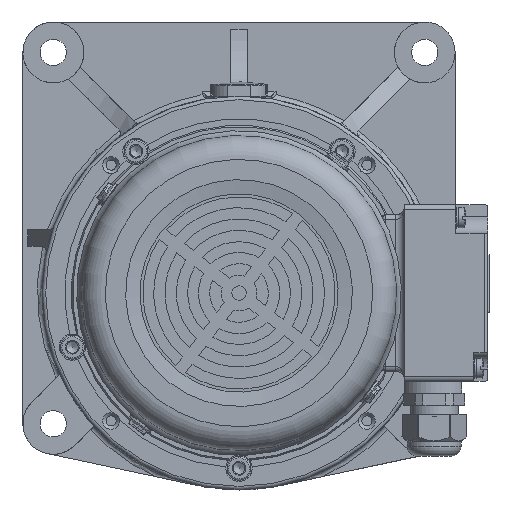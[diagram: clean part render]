
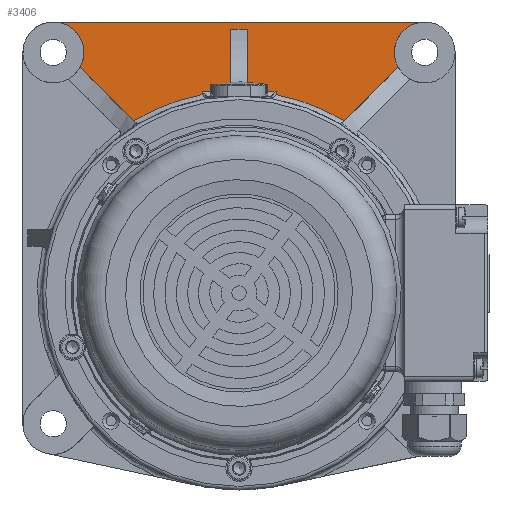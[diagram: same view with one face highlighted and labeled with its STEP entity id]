
A CAD part, left-side view. The second image highlights one B-rep face of the part: STEP entity #3406.
In plain terms, the highlighted planar face has unit normal (-1, 0, 0).
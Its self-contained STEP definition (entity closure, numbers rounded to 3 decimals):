
#3406=ADVANCED_FACE('',(#6187),#4597,.F.);
#4597=PLANE('',#35695);
#6187=FACE_OUTER_BOUND('',#8247,.T.);
#8247=EDGE_LOOP('',(#21022,#21023,#21024,#21025,#21026,#21027,#21028,#21029,
#21030,#21031,#21032,#21033,#21034,#21035,#21036,#21037));
#10553=LINE('',#59541,#12717);
#10554=LINE('',#59545,#12718);
#10555=LINE('',#59549,#12719);
#10556=LINE('',#59551,#12720);
#10557=LINE('',#59553,#12721);
#10558=LINE('',#59577,#12722);
#10559=LINE('',#59589,#12723);
#10563=LINE('',#59608,#12727);
#10564=LINE('',#59624,#12728);
#10565=LINE('',#59649,#12729);
#10579=LINE('',#59699,#12743);
#10593=LINE('',#59759,#12757);
#12717=VECTOR('',#43765,1.);
#12718=VECTOR('',#43770,1.);
#12719=VECTOR('',#43775,1.);
#12720=VECTOR('',#43778,1.);
#12721=VECTOR('',#43781,1.);
#12722=VECTOR('',#43786,1.);
#12723=VECTOR('',#43797,1.);
#12727=VECTOR('',#43811,1.);
#12728=VECTOR('',#43816,1.);
#12729=VECTOR('',#43825,1.);
#12743=VECTOR('',#43867,1.);
#12757=VECTOR('',#43937,1.);
#21022=ORIENTED_EDGE('',*,*,#29564,.T.);
#21023=ORIENTED_EDGE('',*,*,#29563,.T.);
#21024=ORIENTED_EDGE('',*,*,#29560,.T.);
#21025=ORIENTED_EDGE('',*,*,#29556,.T.);
#21026=ORIENTED_EDGE('',*,*,#29553,.T.);
#21027=ORIENTED_EDGE('',*,*,#29614,.T.);
#21028=ORIENTED_EDGE('',*,*,#29592,.T.);
#21029=ORIENTED_EDGE('',*,*,#29586,.T.);
#21030=ORIENTED_EDGE('',*,*,#29548,.T.);
#21031=ORIENTED_EDGE('',*,*,#29545,.T.);
#21032=ORIENTED_EDGE('',*,*,#29543,.T.);
#21033=ORIENTED_EDGE('',*,*,#29540,.T.);
#21034=ORIENTED_EDGE('',*,*,#29539,.T.);
#21035=ORIENTED_EDGE('',*,*,#29538,.T.);
#21036=ORIENTED_EDGE('',*,*,#29536,.T.);
#21037=ORIENTED_EDGE('',*,*,#29534,.T.);
#24990=VERTEX_POINT('',#59061);
#24999=VERTEX_POINT('',#59094);
#25074=VERTEX_POINT('',#59540);
#25075=VERTEX_POINT('',#59544);
#25076=VERTEX_POINT('',#59548);
#25077=VERTEX_POINT('',#59554);
#25078=VERTEX_POINT('',#59576);
#25079=VERTEX_POINT('',#59581);
#25080=VERTEX_POINT('',#59588);
#25085=VERTEX_POINT('',#59599);
#25086=VERTEX_POINT('',#59601);
#25087=VERTEX_POINT('',#59609);
#25088=VERTEX_POINT('',#59623);
#25089=VERTEX_POINT('',#59645);
#25100=VERTEX_POINT('',#59690);
#25105=VERTEX_POINT('',#59713);
#29534=EDGE_CURVE('',#24990,#25074,#10553,.T.);
#29536=EDGE_CURVE('',#25075,#24990,#10554,.T.);
#29538=EDGE_CURVE('',#25076,#25075,#10555,.T.);
#29539=EDGE_CURVE('',#24999,#25076,#10556,.T.);
#29540=EDGE_CURVE('',#25077,#24999,#10557,.T.);
#29543=EDGE_CURVE('',#25078,#25077,#10558,.T.);
#29545=EDGE_CURVE('',#25079,#25078,#32510,.T.);
#29548=EDGE_CURVE('',#25080,#25079,#10559,.T.);
#29553=EDGE_CURVE('',#25086,#25085,#32514,.T.);
#29556=EDGE_CURVE('',#25087,#25086,#10563,.T.);
#29560=EDGE_CURVE('',#25088,#25087,#10564,.T.);
#29563=EDGE_CURVE('',#25089,#25088,#32517,.T.);
#29564=EDGE_CURVE('',#25074,#25089,#10565,.T.);
#29586=EDGE_CURVE('',#25100,#25080,#10579,.T.);
#29592=EDGE_CURVE('',#25105,#25100,#32527,.T.);
#29614=EDGE_CURVE('',#25085,#25105,#10593,.T.);
#32510=CIRCLE('',#35639,84.5);
#32514=CIRCLE('',#35645,12.75);
#32517=CIRCLE('',#35651,84.5);
#32527=CIRCLE('',#35673,12.75);
#35639=AXIS2_PLACEMENT_3D('',#59580,#43791,#43792);
#35645=AXIS2_PLACEMENT_3D('',#59600,#43806,#43807);
#35651=AXIS2_PLACEMENT_3D('',#59647,#43821,#43822);
#35673=AXIS2_PLACEMENT_3D('',#59712,#43882,#43883);
#35695=AXIS2_PLACEMENT_3D('',#59760,#43938,#43939);
#43765=DIRECTION('',(0.,-1.,0.));
#43770=DIRECTION('',(0.,0.,-1.));
#43775=DIRECTION('',(0.,-1.,0.));
#43778=DIRECTION('',(0.,0.,1.));
#43781=DIRECTION('',(0.,-1.,0.));
#43786=DIRECTION('',(0.,0.,1.));
#43791=DIRECTION('',(1.,0.,0.));
#43792=DIRECTION('',(0.,0.,-1.));
#43797=DIRECTION('',(0.,-0.707,-0.707));
#43806=DIRECTION('',(1.,0.,0.));
#43807=DIRECTION('',(0.,0.,-1.));
#43811=DIRECTION('',(0.,-0.707,-0.707));
#43816=DIRECTION('',(0.,-0.707,0.707));
#43821=DIRECTION('',(1.,0.,0.));
#43822=DIRECTION('',(0.,0.,-1.));
#43825=DIRECTION('',(0.,0.,-1.));
#43867=DIRECTION('',(0.,-0.707,0.707));
#43882=DIRECTION('',(1.,0.,0.));
#43883=DIRECTION('',(0.,-1.,0.));
#43937=DIRECTION('',(0.,1.,0.));
#43938=DIRECTION('',(1.,0.,0.));
#43939=DIRECTION('',(0.,0.,-1.));
#59061=CARTESIAN_POINT('',(-96.269,-234.298,84.5));
#59094=CARTESIAN_POINT('',(-96.269,-227.298,84.5));
#59540=CARTESIAN_POINT('',(-96.269,-246.298,84.5));
#59541=CARTESIAN_POINT('',(-96.269,-308.58,84.5));
#59544=CARTESIAN_POINT('',(-96.269,-234.298,110.5));
#59545=CARTESIAN_POINT('',(-96.269,-234.298,112.087));
#59548=CARTESIAN_POINT('',(-96.269,-227.298,110.5));
#59549=CARTESIAN_POINT('',(-96.269,-234.298,110.5));
#59551=CARTESIAN_POINT('',(-96.269,-227.298,112.087));
#59553=CARTESIAN_POINT('',(-96.269,-308.58,84.5));
#59554=CARTESIAN_POINT('',(-96.269,-215.298,84.5));
#59576=CARTESIAN_POINT('',(-96.269,-215.298,83.066));
#59577=CARTESIAN_POINT('',(-96.269,-215.298,82.5));
#59580=CARTESIAN_POINT('',(-96.269,-230.798,0.));
#59581=CARTESIAN_POINT('',(-96.269,-186.68,72.068));
#59588=CARTESIAN_POINT('',(-96.269,-164.247,94.501));
#59589=CARTESIAN_POINT('',(-96.269,-148.276,110.472));
#59599=CARTESIAN_POINT('',(-96.269,-308.58,113.532));
#59600=CARTESIAN_POINT('',(-96.269,-308.58,100.782));
#59601=CARTESIAN_POINT('',(-96.269,-297.675,94.175));
#59608=CARTESIAN_POINT('',(-96.269,-297.349,94.501));
#59609=CARTESIAN_POINT('',(-96.269,-297.349,94.501));
#59623=CARTESIAN_POINT('',(-96.269,-274.917,72.068));
#59624=CARTESIAN_POINT('',(-96.269,-313.321,110.472));
#59645=CARTESIAN_POINT('',(-96.269,-246.298,83.066));
#59647=CARTESIAN_POINT('',(-96.269,-230.798,0.));
#59649=CARTESIAN_POINT('',(-96.269,-246.298,81.388));
#59690=CARTESIAN_POINT('',(-96.269,-163.922,94.175));
#59699=CARTESIAN_POINT('',(-96.269,-164.247,94.501));
#59712=CARTESIAN_POINT('',(-96.269,-153.017,100.782));
#59713=CARTESIAN_POINT('',(-96.269,-153.017,113.532));
#59759=CARTESIAN_POINT('',(-96.269,-153.017,113.532));
#59760=CARTESIAN_POINT('',(-96.269,-308.58,-54.782));
